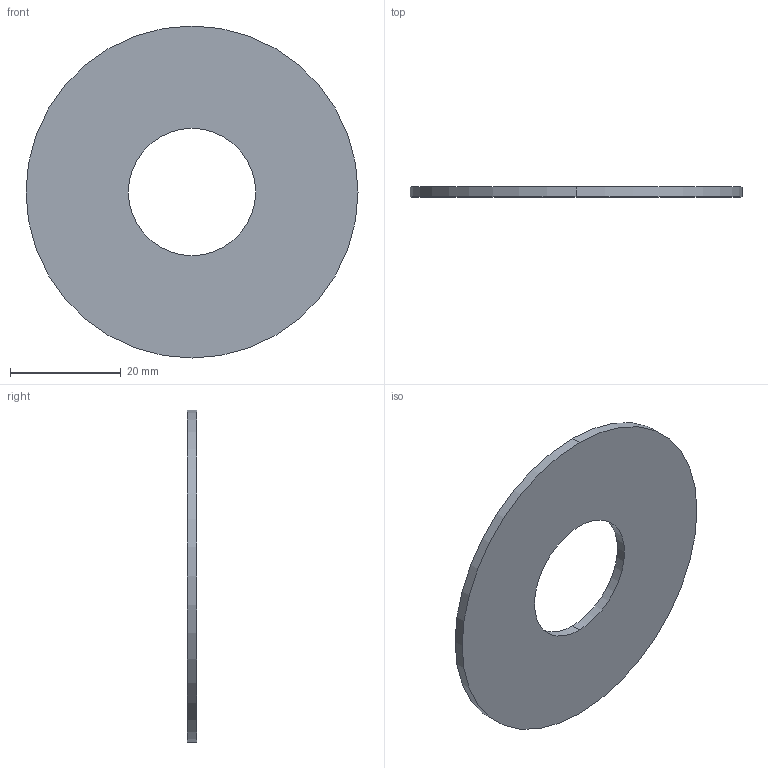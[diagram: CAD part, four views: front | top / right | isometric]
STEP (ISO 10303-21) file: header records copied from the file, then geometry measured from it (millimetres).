
FILE_DESCRIPTION (( 'STEP AP214' ), '1' );
FILE_NAME ('MTB2-F07.STEP', '2017-03-09T18:43:07', ( '' ), ( '' ), 'SwSTEP 2.0', 'SolidWorks 2013', '' );
FILE_SCHEMA (( 'AUTOMOTIVE_DESIGN' ));
Length unit declared in the file: millimetre
Products named in the file (1): MTB2-F07
Bounding box: 60 x 1.8 x 60 mm (x, y, z)
Volume: 4330.2 mm3; surface area: 5318.3 mm2
Topology: 1 solids, 1 shells, 180 faces, 486 edges, 324 vertices
Faces by surface type: plane 128, bspline 48, cylinder 4
Entity records: 10809 total; most frequent: CARTESIAN_POINT 4679, ORIENTED_EDGE 972, DIRECTION 664, EDGE_CURVE 486, VECTOR 382, LINE 382, VERTEX_POINT 324, EDGE_LOOP 198
